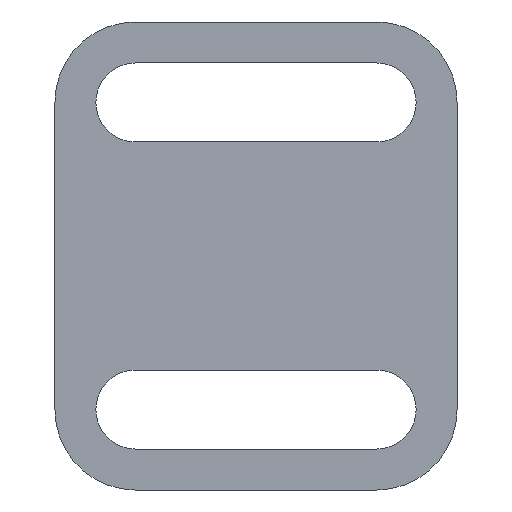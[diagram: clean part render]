
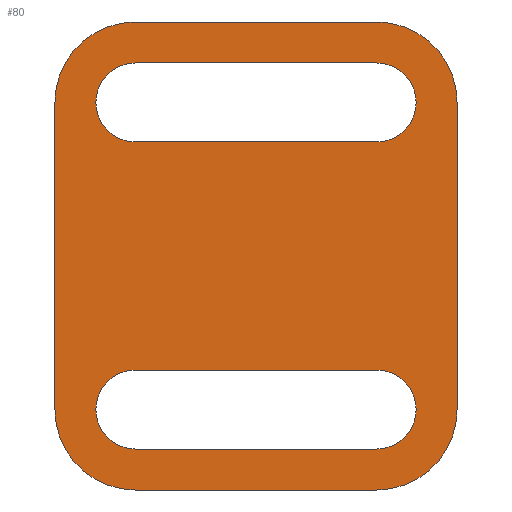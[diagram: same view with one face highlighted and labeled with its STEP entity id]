
A CAD part, front view. The second image highlights one B-rep face of the part: STEP entity #80.
In plain terms, the highlighted planar face has unit normal (0, -1, 0).
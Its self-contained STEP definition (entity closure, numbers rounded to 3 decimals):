
#80 = ADVANCED_FACE( '', ( #117, #118, #119 ), #120, .F. );
#117 = FACE_BOUND( '', #180, .T. );
#118 = FACE_OUTER_BOUND( '', #181, .T. );
#119 = FACE_BOUND( '', #182, .T. );
#120 = PLANE( '', #183 );
#180 = EDGE_LOOP( '', ( #274, #275, #276, #277 ) );
#181 = EDGE_LOOP( '', ( #278, #279, #280, #281, #282, #283, #284, #285 ) );
#182 = EDGE_LOOP( '', ( #286, #287, #288, #289 ) );
#183 = AXIS2_PLACEMENT_3D( '', #290, #291, #292 );
#274 = ORIENTED_EDGE( '', *, *, #481, .T. );
#275 = ORIENTED_EDGE( '', *, *, #482, .T. );
#276 = ORIENTED_EDGE( '', *, *, #483, .T. );
#277 = ORIENTED_EDGE( '', *, *, #484, .T. );
#278 = ORIENTED_EDGE( '', *, *, #485, .F. );
#279 = ORIENTED_EDGE( '', *, *, #486, .F. );
#280 = ORIENTED_EDGE( '', *, *, #487, .F. );
#281 = ORIENTED_EDGE( '', *, *, #488, .F. );
#282 = ORIENTED_EDGE( '', *, *, #489, .F. );
#283 = ORIENTED_EDGE( '', *, *, #490, .F. );
#284 = ORIENTED_EDGE( '', *, *, #467, .F. );
#285 = ORIENTED_EDGE( '', *, *, #491, .F. );
#286 = ORIENTED_EDGE( '', *, *, #492, .T. );
#287 = ORIENTED_EDGE( '', *, *, #493, .T. );
#288 = ORIENTED_EDGE( '', *, *, #494, .T. );
#289 = ORIENTED_EDGE( '', *, *, #495, .T. );
#290 = CARTESIAN_POINT( '', ( 5.5, 0., -10.5 ) );
#291 = DIRECTION( '', ( 0., 1., 0. ) );
#292 = DIRECTION( '', ( 0., 0., 1. ) );
#467 = EDGE_CURVE( '', #550, #551, #552, .T. );
#481 = EDGE_CURVE( '', #577, #578, #579, .T. );
#482 = EDGE_CURVE( '', #578, #580, #581, .T. );
#483 = EDGE_CURVE( '', #580, #582, #583, .T. );
#484 = EDGE_CURVE( '', #582, #577, #584, .T. );
#485 = EDGE_CURVE( '', #585, #586, #587, .T. );
#486 = EDGE_CURVE( '', #588, #585, #589, .T. );
#487 = EDGE_CURVE( '', #590, #588, #591, .T. );
#488 = EDGE_CURVE( '', #592, #590, #593, .T. );
#489 = EDGE_CURVE( '', #594, #592, #595, .T. );
#490 = EDGE_CURVE( '', #551, #594, #596, .T. );
#491 = EDGE_CURVE( '', #586, #550, #597, .T. );
#492 = EDGE_CURVE( '', #598, #599, #600, .T. );
#493 = EDGE_CURVE( '', #599, #601, #602, .T. );
#494 = EDGE_CURVE( '', #601, #603, #604, .T. );
#495 = EDGE_CURVE( '', #603, #598, #605, .T. );
#550 = VERTEX_POINT( '', #673 );
#551 = VERTEX_POINT( '', #674 );
#552 = CIRCLE( '', #675, 5.5 );
#577 = VERTEX_POINT( '', #708 );
#578 = VERTEX_POINT( '', #709 );
#579 = LINE( '', #710, #711 );
#580 = VERTEX_POINT( '', #712 );
#581 = CIRCLE( '', #713, 2.7 );
#582 = VERTEX_POINT( '', #714 );
#583 = LINE( '', #715, #716 );
#584 = CIRCLE( '', #717, 2.7 );
#585 = VERTEX_POINT( '', #718 );
#586 = VERTEX_POINT( '', #719 );
#587 = CIRCLE( '', #720, 5.5 );
#588 = VERTEX_POINT( '', #721 );
#589 = LINE( '', #722, #723 );
#590 = VERTEX_POINT( '', #724 );
#591 = CIRCLE( '', #725, 5.5 );
#592 = VERTEX_POINT( '', #726 );
#593 = LINE( '', #727, #728 );
#594 = VERTEX_POINT( '', #729 );
#595 = CIRCLE( '', #730, 5.5 );
#596 = LINE( '', #731, #732 );
#597 = LINE( '', #733, #734 );
#598 = VERTEX_POINT( '', #735 );
#599 = VERTEX_POINT( '', #736 );
#600 = LINE( '', #737, #738 );
#601 = VERTEX_POINT( '', #739 );
#602 = CIRCLE( '', #740, 2.7 );
#603 = VERTEX_POINT( '', #741 );
#604 = LINE( '', #742, #743 );
#605 = CIRCLE( '', #744, 2.7 );
#673 = CARTESIAN_POINT( '', ( 5.5, 0., -16. ) );
#674 = CARTESIAN_POINT( '', ( 0., 0., -10.5 ) );
#675 = AXIS2_PLACEMENT_3D( '', #829, #830, #831 );
#708 = CARTESIAN_POINT( '', ( 22., 0., -13.2 ) );
#709 = CARTESIAN_POINT( '', ( 5.5, 0., -13.2 ) );
#710 = CARTESIAN_POINT( '', ( 22., 0., -13.2 ) );
#711 = VECTOR( '', #855, 1000. );
#712 = CARTESIAN_POINT( '', ( 5.5, 0., -7.8 ) );
#713 = AXIS2_PLACEMENT_3D( '', #856, #857, #858 );
#714 = CARTESIAN_POINT( '', ( 22., 0., -7.8 ) );
#715 = CARTESIAN_POINT( '', ( 5.5, 0., -7.8 ) );
#716 = VECTOR( '', #859, 1000. );
#717 = AXIS2_PLACEMENT_3D( '', #860, #861, #862 );
#718 = CARTESIAN_POINT( '', ( 27.5, 0., -10.5 ) );
#719 = CARTESIAN_POINT( '', ( 22., 0., -16. ) );
#720 = AXIS2_PLACEMENT_3D( '', #863, #864, #865 );
#721 = CARTESIAN_POINT( '', ( 27.5, 0., 10.5 ) );
#722 = CARTESIAN_POINT( '', ( 27.5, 0., 10.5 ) );
#723 = VECTOR( '', #866, 1000. );
#724 = CARTESIAN_POINT( '', ( 22., 0., 16. ) );
#725 = AXIS2_PLACEMENT_3D( '', #867, #868, #869 );
#726 = CARTESIAN_POINT( '', ( 5.5, 0., 16. ) );
#727 = CARTESIAN_POINT( '', ( 5.5, 0., 16. ) );
#728 = VECTOR( '', #870, 1000. );
#729 = CARTESIAN_POINT( '', ( 0., 0., 10.5 ) );
#730 = AXIS2_PLACEMENT_3D( '', #871, #872, #873 );
#731 = CARTESIAN_POINT( '', ( 0., 0., -10.5 ) );
#732 = VECTOR( '', #874, 1000. );
#733 = CARTESIAN_POINT( '', ( 22., 0., -16. ) );
#734 = VECTOR( '', #875, 1000. );
#735 = CARTESIAN_POINT( '', ( 22., 0., 7.8 ) );
#736 = CARTESIAN_POINT( '', ( 5.5, 0., 7.8 ) );
#737 = CARTESIAN_POINT( '', ( 22., 0., 7.8 ) );
#738 = VECTOR( '', #876, 1000. );
#739 = CARTESIAN_POINT( '', ( 5.5, 0., 13.2 ) );
#740 = AXIS2_PLACEMENT_3D( '', #877, #878, #879 );
#741 = CARTESIAN_POINT( '', ( 22., 0., 13.2 ) );
#742 = CARTESIAN_POINT( '', ( 5.5, 0., 13.2 ) );
#743 = VECTOR( '', #880, 1000. );
#744 = AXIS2_PLACEMENT_3D( '', #881, #882, #883 );
#829 = CARTESIAN_POINT( '', ( 5.5, 0., -10.5 ) );
#830 = DIRECTION( '', ( 0., 1., 0. ) );
#831 = DIRECTION( '', ( 1., 0., 0. ) );
#855 = DIRECTION( '', ( -1., 0., 0. ) );
#856 = CARTESIAN_POINT( '', ( 5.5, 0., -10.5 ) );
#857 = DIRECTION( '', ( 0., 1., 0. ) );
#858 = DIRECTION( '', ( 1., 0., 0. ) );
#859 = DIRECTION( '', ( 1., 0., 0. ) );
#860 = CARTESIAN_POINT( '', ( 22., 0., -10.5 ) );
#861 = DIRECTION( '', ( 0., 1., 0. ) );
#862 = DIRECTION( '', ( 1., 0., 0. ) );
#863 = CARTESIAN_POINT( '', ( 22., 0., -10.5 ) );
#864 = DIRECTION( '', ( 0., 1., 0. ) );
#865 = DIRECTION( '', ( 1., 0., 0. ) );
#866 = DIRECTION( '', ( 0., 0., -1. ) );
#867 = CARTESIAN_POINT( '', ( 22., 0., 10.5 ) );
#868 = DIRECTION( '', ( 0., 1., 0. ) );
#869 = DIRECTION( '', ( 1., 0., 0. ) );
#870 = DIRECTION( '', ( 1., 0., 0. ) );
#871 = CARTESIAN_POINT( '', ( 5.5, 0., 10.5 ) );
#872 = DIRECTION( '', ( 0., 1., 0. ) );
#873 = DIRECTION( '', ( 1., 0., 0. ) );
#874 = DIRECTION( '', ( 0., 0., 1. ) );
#875 = DIRECTION( '', ( -1., 0., 0. ) );
#876 = DIRECTION( '', ( -1., 0., 0. ) );
#877 = CARTESIAN_POINT( '', ( 5.5, 0., 10.5 ) );
#878 = DIRECTION( '', ( 0., 1., 0. ) );
#879 = DIRECTION( '', ( 1., 0., 0. ) );
#880 = DIRECTION( '', ( 1., 0., 0. ) );
#881 = CARTESIAN_POINT( '', ( 22., 0., 10.5 ) );
#882 = DIRECTION( '', ( 0., 1., 0. ) );
#883 = DIRECTION( '', ( 1., 0., 0. ) );
